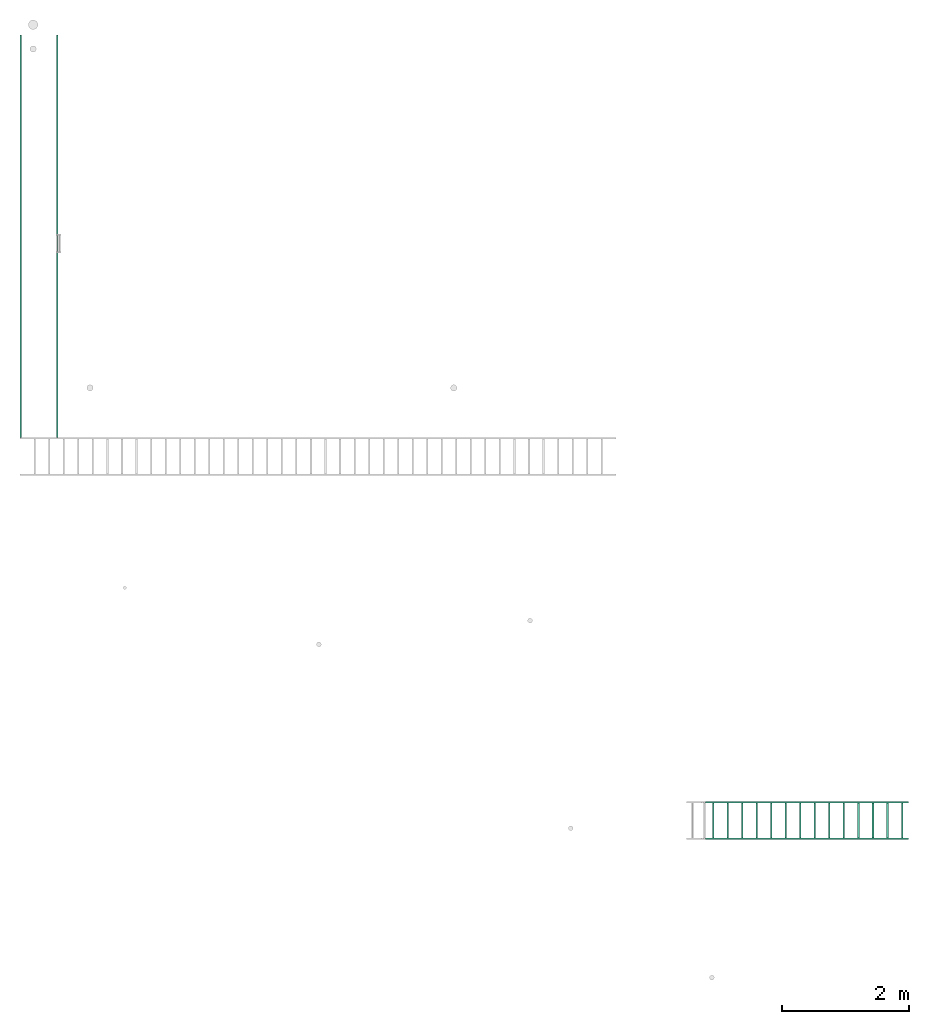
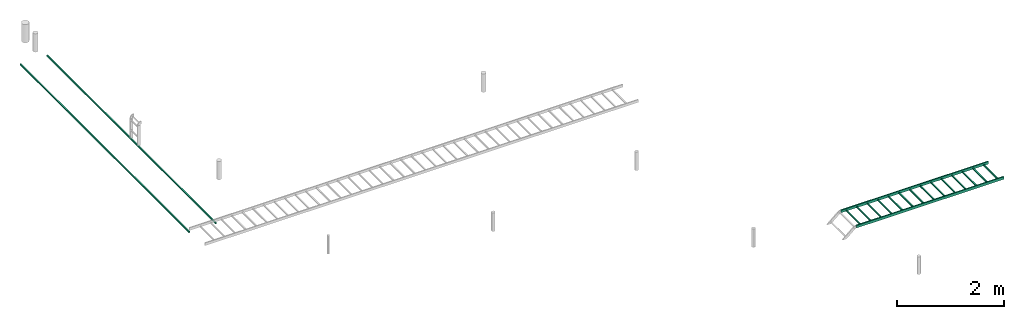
# One storey, part 1 of 5: 2 flow segments.
"""IFC2X3 building model written with IfcOpenShell, lengths in millimetres."""

from ifc_helpers import new_model, entity, si_unit, converted_unit, derived_unit, direction, frame, place, context, subcontext, project, spatial, faceted_brep, type_object, element, save


model = new_model("IFC2X3")

# Units and contexts
model_context = context("Model", 3, precision=0.01, world=frame((0.0, 4.29681676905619e-09, 0.0)), true_north=direction((4.01073788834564e-13, 1.0)))
plan_context = context("Plan", 3, precision=0.01, world=frame((0.0, 4.29681676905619e-09, 0.0)), true_north=direction((4.01073788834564e-13, 1.0)))
body_context = subcontext(model_context, "Body", "Model", "MODEL_VIEW")
ifc_project = project(units=[converted_unit("PLANEANGLEUNIT", "DEGREE", entity("IfcPositiveLengthMeasure", 0.0174532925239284), si_unit("PLANEANGLEUNIT", "RADIAN"), dimensions=[0, 0, 0, 0, 0, 0, 0]), si_unit("AREAUNIT", "SQUARE_METRE"), si_unit("LENGTHUNIT", "METRE", prefix="MILLI"), si_unit("MASSUNIT", "GRAM", prefix="KILO"), si_unit("POWERUNIT", "WATT"), si_unit("PRESSUREUNIT", "PASCAL"), si_unit("FORCEUNIT", "NEWTON", prefix="KILO"), si_unit("ELECTRICCURRENTUNIT", "AMPERE"), si_unit("THERMODYNAMICTEMPERATUREUNIT", "DEGREE_CELSIUS"), si_unit("TIMEUNIT", "SECOND"), si_unit("VOLUMEUNIT", "CUBIC_METRE"), derived_unit("LINEARVELOCITYUNIT", [(si_unit("LENGTHUNIT", "METRE"), 1), (si_unit("TIMEUNIT", "SECOND"), -1)]), derived_unit("VOLUMETRICFLOWRATEUNIT", [(si_unit("VOLUMEUNIT", "CUBIC_METRE"), 1), (si_unit("TIMEUNIT", "SECOND"), -1)]), derived_unit("THERMALTRANSMITTANCEUNIT", [(si_unit("POWERUNIT", "WATT"), 1), (si_unit("THERMODYNAMICTEMPERATUREUNIT", "KELVIN"), -1), (si_unit("AREAUNIT", "SQUARE_METRE"), -1)])], contexts=[model_context, plan_context])

# Site, building, storey
site_placement = place(None, frame((0.0, -4.29681676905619e-09, 0.0), z_axis=(0.0, 0.0, 1.0), x_axis=(1.0, 0.0, 0.0)))
site = spatial("IfcSite", under=ifc_project, at=site_placement, Name="ENGM", CompositionType="ELEMENT")
building_placement = place(site_placement, frame((0.0, 4.29681676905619e-09, 0.0), z_axis=(0.0, 0.0, 1.0), x_axis=(1.0, 0.0, 0.0)))
building = spatial("IfcBuilding", under=site, at=building_placement, Name="TS", CompositionType="ELEMENT")
storey_placement = place(building_placement, frame((0.0, 0.0, 200300.0), z_axis=(0.0, 0.0, 1.0), x_axis=(1.0, 0.0, 0.0)))
storey = spatial("IfcBuildingStorey", under=building, at=storey_placement, Name="Nivå C", CompositionType="ELEMENT", Elevation=200300.0)

# Flow segments
cable_carrier_segment_type = type_object("IfcCableCarrierSegmentType", Name="Kabelbro", PredefinedType="CABLELADDERSEGMENT")
flow_segment_1_placement = place(storey_placement, frame((518418.72232, 413996.33994, 2700.0), z_axis=(0.0, 0.0, 1.0), x_axis=(0.0, 1.0, 0.0)))
element("IfcFlowSegment", 1, at=flow_segment_1_placement, inside=storey, type_object=cable_carrier_segment_type, Name="Kabelbro", context=body_context, shape_type="Brep", body=[
    faceted_brep([(0.0, -300.0, 0.0), (0.0, -287.300005, 0.0), (0.0, -274.60001, 30.0), (0.0, -300.0, 30.0), (0.0, -274.60001, 0.0), (0.0, 274.60001, 0.0), (0.0, 287.300005, 0.0), (0.0, 300.0, 30.0), (0.0, 274.60001, 30.0), (0.0, 300.0, 0.0), (6328.54627, -274.60001, 0.0), (6328.54627, -287.300005, 0.0), (6328.54627, -274.60001, 30.0), (6328.54627, -300.0, 0.0), (6328.54627, -300.0, 30.0), (6328.54627, 300.0, 0.0), (6328.54627, 287.300005, 0.0), (6328.54627, 300.0, 30.0), (6328.54627, 274.60001, 0.0), (6328.54627, 274.60001, 30.0), (3164.273135, -300.0, 0.0), (3164.273135, -274.60001, 0.0), (3164.273135, 300.0, 0.0), (3164.273135, 274.60001, 0.0)], [[[0, 1, 2, 3]], [[1, 4, 2]], [[5, 6, 7, 8]], [[6, 9, 7]], [[10, 11, 12]], [[11, 13, 14, 12]], [[15, 16, 17]], [[16, 18, 19, 17]], [[20, 0, 3]], [[13, 20, 3, 14]], [[14, 3, 2]], [[2, 12, 14]], [[4, 21, 12, 2]], [[21, 10, 12]], [[9, 22, 17, 7]], [[22, 15, 17]], [[23, 5, 8]], [[18, 23, 8, 19]], [[19, 8, 7]], [[7, 17, 19]], [[20, 13, 11, 10, 21, 4, 1, 0]], [[23, 18, 16, 15, 22, 9, 6, 5]]], orient=[[False], [False], [False], [False], [False], [False], [False], [False], [False], [False], [False], [False], [False], [False], [False], [False], [False], [False], [False], [False], [False], [False]]),
])
flow_segment_2_placement = place(storey_placement, frame((536791.26899, 407969.86579, 2900.0), z_axis=(0.0, 0.0, 1.0), x_axis=(-1.0, 0.0, 0.0)))
element("IfcFlowSegment", 2, at=flow_segment_2_placement, inside=storey, type_object=cable_carrier_segment_type, Name="Kabelbro", context=body_context, shape_type="Brep", body=[
    faceted_brep([(4813.3001, 274.60001, -4.6), (4813.3001, -274.60001, -30.0), (4813.3001, -274.60001, -4.6), (4813.3001, 274.60001, -30.0), (4787.8999, 274.60001, -4.6), (4787.8999, -274.60001, -4.6), (4787.8999, 274.60001, -30.0), (4787.8999, -274.60001, -30.0), (5041.89981, 274.60001, -4.6), (5041.89981, -274.60001, -30.0), (5041.89981, -274.60001, -4.6), (5041.89981, 274.60001, -30.0), (5016.50019, 274.60001, -4.6), (5016.50019, -274.60001, -4.6), (5016.50019, 274.60001, -30.0), (5016.50019, -274.60001, -30.0), (5270.49981, 274.60001, -4.6), (5270.49981, -274.60001, -30.0), (5270.49981, -274.60001, -4.6), (5270.49981, 274.60001, -30.0), (5245.10019, 274.60001, -4.6), (5245.10019, -274.60001, -4.6), (5245.10019, 274.60001, -30.0), (5245.10019, -274.60001, -30.0), (5499.09981, 274.60001, -4.6), (5499.09981, -274.60001, -30.0), (5499.09981, -274.60001, -4.6), (5499.09981, 274.60001, -30.0), (5473.70019, 274.60001, -4.6), (5473.70019, -274.60001, -4.6), (5473.70019, 274.60001, -30.0), (5473.70019, -274.60001, -30.0), (5727.69981, 274.60001, -4.6), (5727.69981, -274.60001, -30.0), (5727.69981, -274.60001, -4.6), (5727.69981, 274.60001, -30.0), (5702.30019, 274.60001, -4.6), (5702.30019, -274.60001, -4.6), (5702.30019, 274.60001, -30.0), (5702.30019, -274.60001, -30.0), (5956.29981, 274.60001, -4.6), (5956.29981, -274.60001, -30.0), (5956.29981, -274.60001, -4.6), (5956.29981, 274.60001, -30.0), (5930.90019, 274.60001, -4.6), (5930.90019, -274.60001, -4.6), (5930.90019, 274.60001, -30.0), (5930.90019, -274.60001, -30.0), (6184.89981, 274.60001, -4.6), (6184.89981, -274.60001, -30.0), (6184.89981, -274.60001, -4.6), (6184.89981, 274.60001, -30.0), (6159.50019, 274.60001, -4.6), (6159.50019, -274.60001, -4.6), (6159.50019, 274.60001, -30.0), (6159.50019, -274.60001, -30.0), (6413.49981, 274.60001, -4.6), (6413.49981, -274.60001, -30.0), (6413.49981, -274.60001, -4.6), (6413.49981, 274.60001, -30.0), (6388.10019, 274.60001, -4.6), (6388.10019, -274.60001, -4.6), (6388.10019, 274.60001, -30.0), (6388.10019, -274.60001, -30.0), (6642.09981, 274.60001, -4.6), (6642.09981, -274.60001, -30.0), (6642.09981, -274.60001, -4.6), (6642.09981, 274.60001, -30.0), (6616.70019, 274.60001, -4.6), (6616.70019, -274.60001, -4.6), (6616.70019, 274.60001, -30.0), (6616.70019, -274.60001, -30.0), (6870.69981, 274.60001, -4.6), (6870.69981, -274.60001, -30.0), (6870.69981, -274.60001, -4.6), (6870.69981, 274.60001, -30.0), (6845.30019, 274.60001, -4.6), (6845.30019, -274.60001, -4.6), (6845.30019, 274.60001, -30.0), (6845.30019, -274.60001, -30.0), (7099.29981, 274.60001, -4.6), (7099.29981, -274.60001, -30.0), (7099.29981, -274.60001, -4.6), (7099.29981, 274.60001, -30.0), (7073.90019, 274.60001, -4.6), (7073.90019, -274.60001, -4.6), (7073.90019, 274.60001, -30.0), (7073.90019, -274.60001, -30.0), (7327.89981, 274.60001, -4.6), (7327.89981, -274.60001, -30.0), (7327.89981, -274.60001, -4.6), (7327.89981, 274.60001, -30.0), (7302.50019, 274.60001, -4.6), (7302.50019, -274.60001, -4.6), (7302.50019, 274.60001, -30.0), (7302.50019, -274.60001, -30.0), (7556.49981, 274.60001, -4.6), (7556.49981, -274.60001, -30.0), (7556.49981, -274.60001, -4.6), (7556.49981, 274.60001, -30.0), (7531.10019, 274.60001, -4.6), (7531.10019, -274.60001, -4.6), (7531.10019, 274.60001, -30.0), (7531.10019, -274.60001, -30.0), (7785.09981, 274.60001, -4.6), (7785.09981, -274.60001, -30.0), (7785.09981, -274.60001, -4.6), (7785.09981, 274.60001, -30.0), (7759.70019, 274.60001, -4.6), (7759.70019, -274.60001, -4.6), (7759.70019, 274.60001, -30.0), (7759.70019, -274.60001, -30.0), (7889.68993, -274.60001, -30.0), (7889.68993, -300.0, -30.0), (7889.68993, -300.0, 30.0), (7889.68993, -274.60001, 30.0), (7889.68993, 300.0, -30.0), (7889.68993, 274.60001, -30.0), (7889.68993, 274.60001, 30.0), (7889.68993, 300.0, 30.0), (4696.26898999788, -300.0, -30.0), (4696.26898999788, -300.0, -5.71447571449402), (4696.26898999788, -300.0, 30.0), (4696.26898999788, -284.880877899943, 30.0), (4696.26898999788, -274.60001, 30.0), (4696.26898999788, -274.60001, 5.71447571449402), (4696.26898999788, -274.60001, -30.0), (4696.26898999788, -289.719132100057, -30.0), (4696.26898999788, 300.0, 30.0), (4696.26898999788, 300.0, 5.71447571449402), (4696.26898999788, 300.0, -30.0), (4696.26898999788, 284.880877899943, -30.0), (4696.26898999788, 274.60001, -30.0), (4696.26898999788, 274.60001, -5.71447571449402), (4696.26898999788, 274.60001, 30.0), (4696.26898999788, 289.719132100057, 30.0)], [[[0, 1, 2]], [[1, 0, 3]], [[4, 2, 5]], [[2, 4, 0]], [[6, 5, 7]], [[5, 6, 4]], [[3, 7, 1]], [[7, 3, 6]], [[8, 9, 10]], [[9, 8, 11]], [[12, 10, 13]], [[10, 12, 8]], [[14, 13, 15]], [[13, 14, 12]], [[11, 15, 9]], [[15, 11, 14]], [[16, 17, 18]], [[17, 16, 19]], [[20, 18, 21]], [[18, 20, 16]], [[22, 21, 23]], [[21, 22, 20]], [[19, 23, 17]], [[23, 19, 22]], [[24, 25, 26]], [[25, 24, 27]], [[28, 26, 29]], [[26, 28, 24]], [[30, 29, 31]], [[29, 30, 28]], [[27, 31, 25]], [[31, 27, 30]], [[32, 33, 34]], [[33, 32, 35]], [[36, 34, 37]], [[34, 36, 32]], [[38, 37, 39]], [[37, 38, 36]], [[35, 39, 33]], [[39, 35, 38]], [[40, 41, 42]], [[41, 40, 43]], [[44, 42, 45]], [[42, 44, 40]], [[46, 45, 47]], [[45, 46, 44]], [[43, 47, 41]], [[47, 43, 46]], [[48, 49, 50]], [[49, 48, 51]], [[52, 50, 53]], [[50, 52, 48]], [[54, 53, 55]], [[53, 54, 52]], [[51, 55, 49]], [[55, 51, 54]], [[56, 57, 58]], [[57, 56, 59]], [[60, 58, 61]], [[58, 60, 56]], [[62, 61, 63]], [[61, 62, 60]], [[59, 63, 57]], [[63, 59, 62]], [[64, 65, 66]], [[65, 64, 67]], [[68, 66, 69]], [[66, 68, 64]], [[70, 69, 71]], [[69, 70, 68]], [[67, 71, 65]], [[71, 67, 70]], [[72, 73, 74]], [[73, 72, 75]], [[76, 74, 77]], [[74, 76, 72]], [[78, 77, 79]], [[77, 78, 76]], [[75, 79, 73]], [[79, 75, 78]], [[80, 81, 82]], [[81, 80, 83]], [[84, 82, 85]], [[82, 84, 80]], [[86, 85, 87]], [[85, 86, 84]], [[83, 87, 81]], [[87, 83, 86]], [[88, 89, 90]], [[89, 88, 91]], [[92, 90, 93]], [[90, 92, 88]], [[94, 93, 95]], [[93, 94, 92]], [[91, 95, 89]], [[95, 91, 94]], [[96, 97, 98]], [[97, 96, 99]], [[100, 98, 101]], [[98, 100, 96]], [[102, 101, 103]], [[101, 102, 100]], [[99, 103, 97]], [[103, 99, 102]], [[104, 105, 106]], [[105, 104, 107]], [[108, 106, 109]], [[106, 108, 104]], [[110, 109, 111]], [[109, 110, 108]], [[107, 111, 105]], [[111, 107, 110]], [[5, 2, 1]], [[1, 7, 5]], [[3, 0, 4]], [[4, 6, 3]], [[13, 10, 9]], [[9, 15, 13]], [[11, 8, 12]], [[12, 14, 11]], [[21, 18, 17]], [[17, 23, 21]], [[19, 16, 20]], [[20, 22, 19]], [[29, 26, 25]], [[25, 31, 29]], [[27, 24, 28]], [[28, 30, 27]], [[37, 34, 33]], [[33, 39, 37]], [[35, 32, 36]], [[36, 38, 35]], [[45, 42, 41]], [[41, 47, 45]], [[43, 40, 44]], [[44, 46, 43]], [[53, 50, 49]], [[49, 55, 53]], [[51, 48, 52]], [[52, 54, 51]], [[61, 58, 57]], [[57, 63, 61]], [[59, 56, 60]], [[60, 62, 59]], [[69, 66, 65]], [[65, 71, 69]], [[67, 64, 68]], [[68, 70, 67]], [[77, 74, 73]], [[73, 79, 77]], [[75, 72, 76]], [[76, 78, 75]], [[85, 82, 81]], [[81, 87, 85]], [[83, 80, 84]], [[84, 86, 83]], [[93, 90, 89]], [[89, 95, 93]], [[91, 88, 92]], [[92, 94, 91]], [[101, 98, 97]], [[97, 103, 101]], [[99, 96, 100]], [[100, 102, 99]], [[109, 106, 105]], [[105, 111, 109]], [[107, 104, 108]], [[108, 110, 107]], [[112, 113, 114]], [[114, 115, 112]], [[116, 117, 118]], [[118, 119, 116]], [[120, 121, 113]], [[121, 122, 114, 113]], [[123, 124, 115]], [[122, 123, 115, 114]], [[124, 125, 115]], [[125, 126, 112, 115]], [[127, 120, 113]], [[126, 127, 113, 112]], [[128, 129, 119]], [[129, 130, 116, 119]], [[131, 132, 117]], [[130, 131, 117, 116]], [[132, 133, 117]], [[133, 134, 118, 117]], [[135, 128, 119]], [[134, 135, 119, 118]], [[127, 126, 125, 124, 123, 122, 121, 120]], [[135, 134, 133, 132, 131, 130, 129, 128]]], orient=[[False], [False], [False], [False], [False], [False], [False], [False], [False], [False], [False], [False], [False], [False], [False], [False], [False], [False], [False], [False], [False], [False], [False], [False], [False], [False], [False], [False], [False], [False], [False], [False], [False], [False], [False], [False], [False], [False], [False], [False], [False], [False], [False], [False], [False], [False], [False], [False], [False], [False], [False], [False], [False], [False], [False], [False], [False], [False], [False], [False], [False], [False], [False], [False], [False], [False], [False], [False], [False], [False], [False], [False], [False], [False], [False], [False], [False], [False], [False], [False], [False], [False], [False], [False], [False], [False], [False], [False], [False], [False], [False], [False], [False], [False], [False], [False], [False], [False], [False], [False], [False], [False], [False], [False], [False], [False], [False], [False], [False], [False], [False], [False], [False], [False], [False], [False], [False], [False], [False], [False], [False], [False], [False], [False], [False], [False], [False], [False], [False], [False], [False], [False], [False], [False], [False], [False], [False], [False], [False], [False], [False], [False], [False], [False], [False], [False], [False], [False], [False], [False], [False], [False], [False], [False], [False], [False], [False], [False], [False], [False], [False], [False], [False], [False], [False], [False], [False], [False], [False], [False], [False], [False], [False], [False], [False], [False], [False], [False], [False], [False], [False], [False], [False], [False], [False], [False], [False], [False], [False], [False]]),
])

save(model, "model.ifc")
